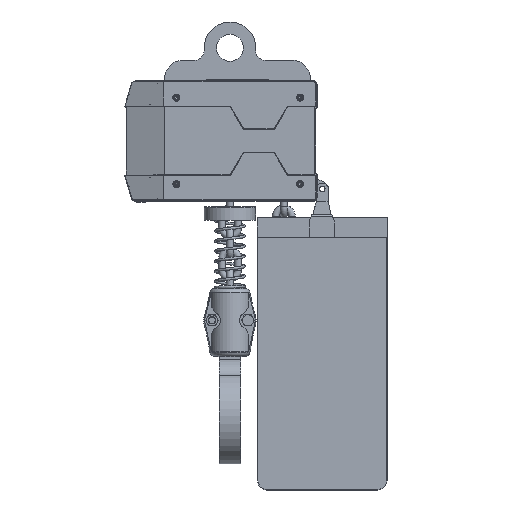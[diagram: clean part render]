
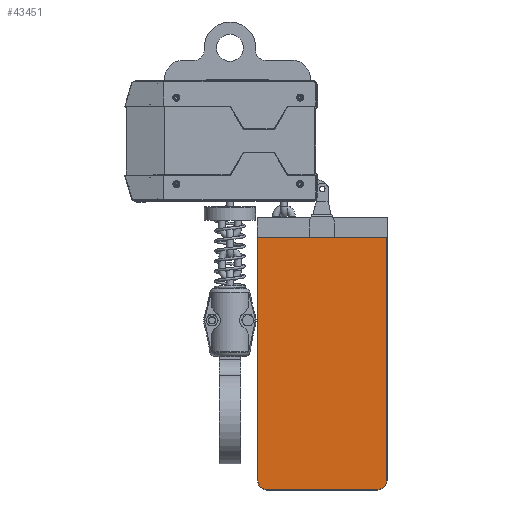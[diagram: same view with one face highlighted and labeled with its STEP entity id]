
A CAD part, top view. The second image highlights one B-rep face of the part: STEP entity #43451.
In plain terms, the highlighted planar face has unit normal (0, 0, 1).
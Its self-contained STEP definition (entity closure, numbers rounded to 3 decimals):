
#1290=LINE('',#72945,#5133);
#1391=LINE('',#73447,#5234);
#1397=LINE('',#73463,#5240);
#1398=LINE('',#73467,#5241);
#5133=VECTOR('',#52946,1000.);
#5234=VECTOR('',#53187,1000.);
#5240=VECTOR('',#53201,1000.);
#5241=VECTOR('',#53206,1000.);
#8588=PLANE('',#47116);
#13530=ORIENTED_EDGE('',*,*,#24972,.F.);
#13531=ORIENTED_EDGE('',*,*,#25117,.F.);
#13532=ORIENTED_EDGE('',*,*,#25118,.T.);
#13533=ORIENTED_EDGE('',*,*,#25119,.T.);
#13534=ORIENTED_EDGE('',*,*,#25120,.T.);
#13535=ORIENTED_EDGE('',*,*,#25109,.T.);
#24972=EDGE_CURVE('',#31074,#31075,#1290,.T.);
#25109=EDGE_CURVE('',#31157,#31075,#1391,.T.);
#25117=EDGE_CURVE('',#31162,#31074,#1397,.T.);
#25118=EDGE_CURVE('',#31162,#31163,#34702,.T.);
#25119=EDGE_CURVE('',#31163,#31164,#1398,.T.);
#25120=EDGE_CURVE('',#31164,#31157,#34703,.T.);
#31074=VERTEX_POINT('',#72946);
#31075=VERTEX_POINT('',#72947);
#31157=VERTEX_POINT('',#73448);
#31162=VERTEX_POINT('',#73462);
#31163=VERTEX_POINT('',#73466);
#31164=VERTEX_POINT('',#73468);
#34702=CIRCLE('',#47117,15.);
#34703=CIRCLE('',#47118,15.);
#36801=EDGE_LOOP('',(#13530,#13531,#13532,#13533,#13534,#13535));
#39761=FACE_BOUND('',#36801,.T.);
#43451=ADVANCED_FACE('',(#39761),#8588,.T.);
#47116=AXIS2_PLACEMENT_3D('',#73464,#53202,#53203);
#47117=AXIS2_PLACEMENT_3D('',#73465,#53204,#53205);
#47118=AXIS2_PLACEMENT_3D('',#73469,#53207,#53208);
#52946=DIRECTION('',(1.,0.,0.));
#53187=DIRECTION('',(0.,1.,0.));
#53201=DIRECTION('',(0.,1.,0.));
#53202=DIRECTION('',(0.,0.,1.));
#53203=DIRECTION('',(-1.,0.,0.));
#53204=DIRECTION('',(0.,0.,1.));
#53205=DIRECTION('',(1.,0.,0.));
#53206=DIRECTION('',(1.,0.,0.));
#53207=DIRECTION('',(0.,0.,1.));
#53208=DIRECTION('',(1.,0.,0.));
#72945=CARTESIAN_POINT('',(1744.812,143.396,196.225));
#72946=CARTESIAN_POINT('',(1714.812,143.396,196.225));
#72947=CARTESIAN_POINT('',(1924.312,143.396,196.225));
#73447=CARTESIAN_POINT('',(1924.312,170.396,196.225));
#73448=CARTESIAN_POINT('',(1924.312,-249.604,196.225));
#73462=CARTESIAN_POINT('',(1714.812,-249.604,196.225));
#73463=CARTESIAN_POINT('',(1714.812,941.888,196.225));
#73464=CARTESIAN_POINT('',(1744.812,170.396,196.225));
#73465=CARTESIAN_POINT('',(1729.812,-249.604,196.225));
#73466=CARTESIAN_POINT('',(1729.812,-264.604,196.225));
#73467=CARTESIAN_POINT('',(1742.812,-264.604,196.225));
#73468=CARTESIAN_POINT('',(1909.312,-264.604,196.225));
#73469=CARTESIAN_POINT('',(1909.312,-249.604,196.225));
